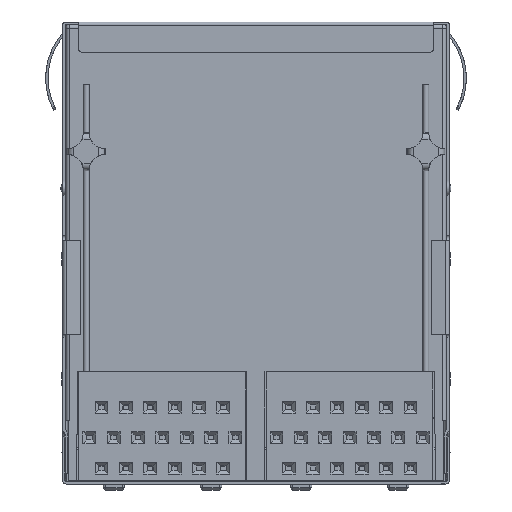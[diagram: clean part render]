
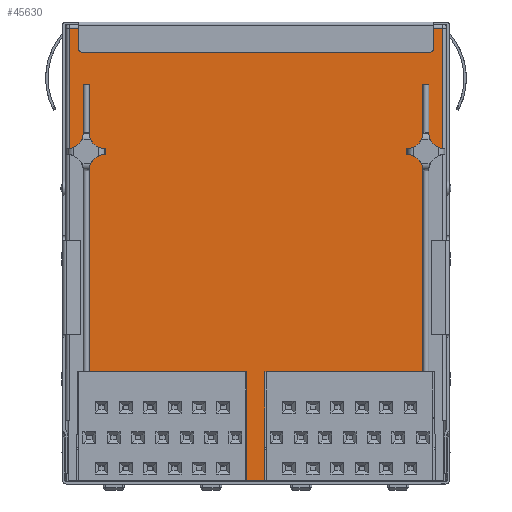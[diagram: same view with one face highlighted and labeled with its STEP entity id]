
A CAD part, front view. The second image highlights one B-rep face of the part: STEP entity #45630.
In plain terms, the highlighted planar face has unit normal (0, -1, 0).
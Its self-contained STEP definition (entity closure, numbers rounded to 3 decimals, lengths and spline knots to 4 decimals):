
#3441=DIRECTION('',(-1.,0.,0.));
#3442=VECTOR('',#3441,1.2244);
#3443=CARTESIAN_POINT('',(0.3051,0.,-0.0118));
#3444=LINE('',#3443,#3442);
#3624=DIRECTION('',(0.,0.,-1.));
#3625=VECTOR('',#3624,0.3953);
#3626=CARTESIAN_POINT('',(-0.9193,0.,-0.0118));
#3627=LINE('',#3626,#3625);
#3659=CARTESIAN_POINT('',(0.311,0.,-0.3563));
#3660=DIRECTION('',(0.,1.,0.));
#3661=DIRECTION('',(-0.115,0.,-0.993));
#3662=AXIS2_PLACEMENT_3D('',#3659,#3660,#3661);
#3664=DIRECTION('',(0.,0.,1.));
#3665=VECTOR('',#3664,0.1594);
#3666=CARTESIAN_POINT('',(0.2598,0.,-0.3563));
#3667=LINE('',#3666,#3665);
#3668=DIRECTION('',(-1.,0.,0.));
#3669=VECTOR('',#3668,0.0197);
#3670=CARTESIAN_POINT('',(0.2598,0.,-0.1969));
#3671=LINE('',#3670,#3669);
#3672=DIRECTION('',(0.,0.,-1.));
#3673=VECTOR('',#3672,0.1594);
#3674=CARTESIAN_POINT('',(0.2402,0.,-0.1969));
#3675=LINE('',#3674,#3673);
#3676=CARTESIAN_POINT('',(0.189,0.,-0.3563));
#3677=DIRECTION('',(0.,1.,0.));
#3678=DIRECTION('',(1.,0.,0.));
#3679=AXIS2_PLACEMENT_3D('',#3676,#3677,#3678);
#3681=DIRECTION('',(-1.,0.,0.));
#3682=VECTOR('',#3681,0.002);
#3683=CARTESIAN_POINT('',(0.189,0.,-0.4075));
#3684=LINE('',#3683,#3682);
#3685=CARTESIAN_POINT('',(0.189,0.,-0.4783));
#3686=DIRECTION('',(0.,1.,0.));
#3687=DIRECTION('',(0.,0.,1.));
#3688=AXIS2_PLACEMENT_3D('',#3685,#3686,#3687);
#3690=DIRECTION('',(-1.,0.,0.));
#3691=VECTOR('',#3690,0.5177);
#3692=CARTESIAN_POINT('',(0.2402,0.,-1.1398));
#3693=LINE('',#3692,#3691);
#3694=DIRECTION('',(0.,0.,1.));
#3695=VECTOR('',#3694,0.3563);
#3696=CARTESIAN_POINT('',(-0.3366,0.,-1.4961));
#3697=LINE('',#3696,#3695);
#3698=DIRECTION('',(-1.,0.,0.));
#3699=VECTOR('',#3698,0.5177);
#3700=CARTESIAN_POINT('',(-0.3366,0.,-1.1398));
#3701=LINE('',#3700,#3699);
#3702=DIRECTION('',(0.,0.,1.));
#3703=VECTOR('',#3702,0.6614);
#3704=CARTESIAN_POINT('',(-0.8543,0.,-1.1398));
#3705=LINE('',#3704,#3703);
#3706=CARTESIAN_POINT('',(-0.8031,0.,-0.4783));
#3707=DIRECTION('',(0.,1.,0.));
#3708=DIRECTION('',(-1.,0.,0.));
#3709=AXIS2_PLACEMENT_3D('',#3706,#3707,#3708);
#3711=DIRECTION('',(1.,0.,0.));
#3712=VECTOR('',#3711,0.002);
#3713=CARTESIAN_POINT('',(-0.8031,0.,-0.4272));
#3714=LINE('',#3713,#3712);
#3715=DIRECTION('',(0.,0.,1.));
#3716=VECTOR('',#3715,0.0197);
#3717=CARTESIAN_POINT('',(-0.8012,0.,-0.4272));
#3718=LINE('',#3717,#3716);
#3719=CARTESIAN_POINT('',(-0.8031,0.,-0.3563));
#3720=DIRECTION('',(0.,1.,0.));
#3721=DIRECTION('',(0.,0.,-1.));
#3722=AXIS2_PLACEMENT_3D('',#3719,#3720,#3721);
#3724=CARTESIAN_POINT('',(-0.9252,0.,-0.3563));
#3725=DIRECTION('',(0.,1.,0.));
#3726=DIRECTION('',(1.,0.,0.));
#3727=AXIS2_PLACEMENT_3D('',#3724,#3725,#3726);
#3764=DIRECTION('',(0.,0.,1.));
#3765=VECTOR('',#3764,0.3953);
#3766=CARTESIAN_POINT('',(0.3051,0.,-0.4071));
#3767=LINE('',#3766,#3765);
#4209=DIRECTION('',(0.,0.,1.));
#4210=VECTOR('',#4209,0.3563);
#4211=CARTESIAN_POINT('',(-0.2776,0.,-1.4961));
#4212=LINE('',#4211,#4210);
#4253=DIRECTION('',(1.,0.,0.));
#4254=VECTOR('',#4253,0.0591);
#4255=CARTESIAN_POINT('',(-0.3366,0.,-1.4961));
#4256=LINE('',#4255,#4254);
#11899=DIRECTION('',(0.,0.,1.));
#11900=VECTOR('',#11899,0.6614);
#11901=CARTESIAN_POINT('',(0.2402,0.,-1.1398));
#11902=LINE('',#11901,#11900);
#11957=DIRECTION('',(-1.,0.,0.));
#11958=VECTOR('',#11957,0.002);
#11959=CARTESIAN_POINT('',(0.189,0.,-0.4272));
#11960=LINE('',#11959,#11958);
#11969=DIRECTION('',(0.,0.,1.));
#11970=VECTOR('',#11969,0.0197);
#11971=CARTESIAN_POINT('',(0.187,0.,-0.4272));
#11972=LINE('',#11971,#11970);
#14955=DIRECTION('',(0.,0.,1.));
#14956=VECTOR('',#14955,0.1594);
#14957=CARTESIAN_POINT('',(-0.874,0.,-0.3563));
#14958=LINE('',#14957,#14956);
#14980=DIRECTION('',(1.,0.,0.));
#14981=VECTOR('',#14980,0.0197);
#14982=CARTESIAN_POINT('',(-0.874,0.,-0.1969));
#14983=LINE('',#14982,#14981);
#14984=DIRECTION('',(0.,0.,-1.));
#14985=VECTOR('',#14984,0.1594);
#14986=CARTESIAN_POINT('',(-0.8543,0.,-0.1969));
#14987=LINE('',#14986,#14985);
#15018=DIRECTION('',(1.,0.,0.));
#15019=VECTOR('',#15018,0.002);
#15020=CARTESIAN_POINT('',(-0.8031,0.,-0.4075));
#15021=LINE('',#15020,#15019);
#32089=CARTESIAN_POINT('',(0.3051,0.,-0.4071));
#32090=CARTESIAN_POINT('',(0.3051,0.,-0.0118));
#32091=VERTEX_POINT('',#32089);
#32092=VERTEX_POINT('',#32090);
#32093=CARTESIAN_POINT('',(0.2598,0.,-0.3563));
#32094=VERTEX_POINT('',#32093);
#32095=CARTESIAN_POINT('',(0.2598,0.,-0.1969));
#32096=VERTEX_POINT('',#32095);
#32097=CARTESIAN_POINT('',(0.2402,0.,-0.1969));
#32098=VERTEX_POINT('',#32097);
#32099=CARTESIAN_POINT('',(0.2402,0.,-0.3563));
#32100=VERTEX_POINT('',#32099);
#32101=CARTESIAN_POINT('',(0.189,0.,-0.4075));
#32102=VERTEX_POINT('',#32101);
#32103=CARTESIAN_POINT('',(0.187,0.,-0.4075));
#32104=VERTEX_POINT('',#32103);
#32105=CARTESIAN_POINT('',(0.187,0.,-0.4272));
#32106=VERTEX_POINT('',#32105);
#32107=CARTESIAN_POINT('',(0.189,0.,-0.4272));
#32108=VERTEX_POINT('',#32107);
#32109=CARTESIAN_POINT('',(0.2402,0.,-0.4783));
#32110=VERTEX_POINT('',#32109);
#32111=CARTESIAN_POINT('',(0.2402,0.,-1.1398));
#32112=VERTEX_POINT('',#32111);
#32113=CARTESIAN_POINT('',(-0.2776,0.,-1.1398));
#32114=VERTEX_POINT('',#32113);
#32115=CARTESIAN_POINT('',(-0.2776,0.,-1.4961));
#32116=VERTEX_POINT('',#32115);
#32117=CARTESIAN_POINT('',(-0.3366,0.,-1.4961));
#32118=VERTEX_POINT('',#32117);
#32119=CARTESIAN_POINT('',(-0.3366,0.,-1.1398));
#32120=VERTEX_POINT('',#32119);
#32121=CARTESIAN_POINT('',(-0.8543,0.,-1.1398));
#32122=VERTEX_POINT('',#32121);
#32123=CARTESIAN_POINT('',(-0.8543,0.,-0.4783));
#32124=VERTEX_POINT('',#32123);
#32125=CARTESIAN_POINT('',(-0.8031,0.,-0.4272));
#32126=VERTEX_POINT('',#32125);
#32127=CARTESIAN_POINT('',(-0.8012,0.,-0.4272));
#32128=VERTEX_POINT('',#32127);
#32129=CARTESIAN_POINT('',(-0.8012,0.,-0.4075));
#32130=VERTEX_POINT('',#32129);
#32131=CARTESIAN_POINT('',(-0.8031,0.,-0.4075));
#32132=VERTEX_POINT('',#32131);
#32133=CARTESIAN_POINT('',(-0.8543,0.,-0.3563));
#32134=VERTEX_POINT('',#32133);
#32135=CARTESIAN_POINT('',(-0.8543,0.,-0.1969));
#32136=VERTEX_POINT('',#32135);
#32137=CARTESIAN_POINT('',(-0.874,0.,-0.1969));
#32138=VERTEX_POINT('',#32137);
#32139=CARTESIAN_POINT('',(-0.874,0.,-0.3563));
#32140=VERTEX_POINT('',#32139);
#32141=CARTESIAN_POINT('',(-0.9193,0.,-0.4071));
#32142=VERTEX_POINT('',#32141);
#32143=CARTESIAN_POINT('',(-0.9193,0.,-0.0118));
#32144=VERTEX_POINT('',#32143);
#45569=CARTESIAN_POINT('',(0.,0.,-0.6358));
#45570=DIRECTION('',(0.,1.,0.));
#45571=DIRECTION('',(0.,0.,1.));
#45572=AXIS2_PLACEMENT_3D('',#45569,#45570,#45571);
#45573=PLANE('',#45572);
#45575=ORIENTED_EDGE('',*,*,#45574,.F.);
#45577=ORIENTED_EDGE('',*,*,#45576,.T.);
#45579=ORIENTED_EDGE('',*,*,#45578,.T.);
#45581=ORIENTED_EDGE('',*,*,#45580,.T.);
#45583=ORIENTED_EDGE('',*,*,#45582,.T.);
#45585=ORIENTED_EDGE('',*,*,#45584,.T.);
#45587=ORIENTED_EDGE('',*,*,#45586,.T.);
#45589=ORIENTED_EDGE('',*,*,#45588,.F.);
#45591=ORIENTED_EDGE('',*,*,#45590,.F.);
#45593=ORIENTED_EDGE('',*,*,#45592,.T.);
#45595=ORIENTED_EDGE('',*,*,#45594,.F.);
#45597=ORIENTED_EDGE('',*,*,#45596,.T.);
#45599=ORIENTED_EDGE('',*,*,#45598,.F.);
#45601=ORIENTED_EDGE('',*,*,#45600,.F.);
#45603=ORIENTED_EDGE('',*,*,#45602,.T.);
#45605=ORIENTED_EDGE('',*,*,#45604,.T.);
#45607=ORIENTED_EDGE('',*,*,#45606,.T.);
#45609=ORIENTED_EDGE('',*,*,#45608,.T.);
#45611=ORIENTED_EDGE('',*,*,#45610,.T.);
#45613=ORIENTED_EDGE('',*,*,#45612,.T.);
#45615=ORIENTED_EDGE('',*,*,#45614,.F.);
#45617=ORIENTED_EDGE('',*,*,#45616,.T.);
#45619=ORIENTED_EDGE('',*,*,#45618,.F.);
#45621=ORIENTED_EDGE('',*,*,#45620,.F.);
#45623=ORIENTED_EDGE('',*,*,#45622,.F.);
#45625=ORIENTED_EDGE('',*,*,#45624,.T.);
#45626=ORIENTED_EDGE('',*,*,#45548,.F.);
#45627=ORIENTED_EDGE('',*,*,#45306,.F.);
#45628=EDGE_LOOP('',(#45575,#45577,#45579,#45581,#45583,#45585,#45587,#45589,
#45591,#45593,#45595,#45597,#45599,#45601,#45603,#45605,#45607,#45609,#45611,
#45613,#45615,#45617,#45619,#45621,#45623,#45625,#45626,#45627));
#45629=FACE_OUTER_BOUND('',#45628,.F.);
#45630=ADVANCED_FACE('',(#45629),#45573,.F.);
#3663=CIRCLE('',#3662,0.0512);
#3680=CIRCLE('',#3679,0.0512);
#3689=CIRCLE('',#3688,0.0512);
#3710=CIRCLE('',#3709,0.0512);
#3723=CIRCLE('',#3722,0.0512);
#3728=CIRCLE('',#3727,0.0512);
#45306=EDGE_CURVE('',#32092,#32144,#3444,.T.);
#45548=EDGE_CURVE('',#32144,#32142,#3627,.T.);
#45574=EDGE_CURVE('',#32091,#32092,#3767,.T.);
#45576=EDGE_CURVE('',#32091,#32094,#3663,.T.);
#45578=EDGE_CURVE('',#32094,#32096,#3667,.T.);
#45580=EDGE_CURVE('',#32096,#32098,#3671,.T.);
#45582=EDGE_CURVE('',#32098,#32100,#3675,.T.);
#45584=EDGE_CURVE('',#32100,#32102,#3680,.T.);
#45586=EDGE_CURVE('',#32102,#32104,#3684,.T.);
#45588=EDGE_CURVE('',#32106,#32104,#11972,.T.);
#45590=EDGE_CURVE('',#32108,#32106,#11960,.T.);
#45592=EDGE_CURVE('',#32108,#32110,#3689,.T.);
#45594=EDGE_CURVE('',#32112,#32110,#11902,.T.);
#45596=EDGE_CURVE('',#32112,#32114,#3693,.T.);
#45598=EDGE_CURVE('',#32116,#32114,#4212,.T.);
#45600=EDGE_CURVE('',#32118,#32116,#4256,.T.);
#45602=EDGE_CURVE('',#32118,#32120,#3697,.T.);
#45604=EDGE_CURVE('',#32120,#32122,#3701,.T.);
#45606=EDGE_CURVE('',#32122,#32124,#3705,.T.);
#45608=EDGE_CURVE('',#32124,#32126,#3710,.T.);
#45610=EDGE_CURVE('',#32126,#32128,#3714,.T.);
#45612=EDGE_CURVE('',#32128,#32130,#3718,.T.);
#45614=EDGE_CURVE('',#32132,#32130,#15021,.T.);
#45616=EDGE_CURVE('',#32132,#32134,#3723,.T.);
#45618=EDGE_CURVE('',#32136,#32134,#14987,.T.);
#45620=EDGE_CURVE('',#32138,#32136,#14983,.T.);
#45622=EDGE_CURVE('',#32140,#32138,#14958,.T.);
#45624=EDGE_CURVE('',#32140,#32142,#3728,.T.);
